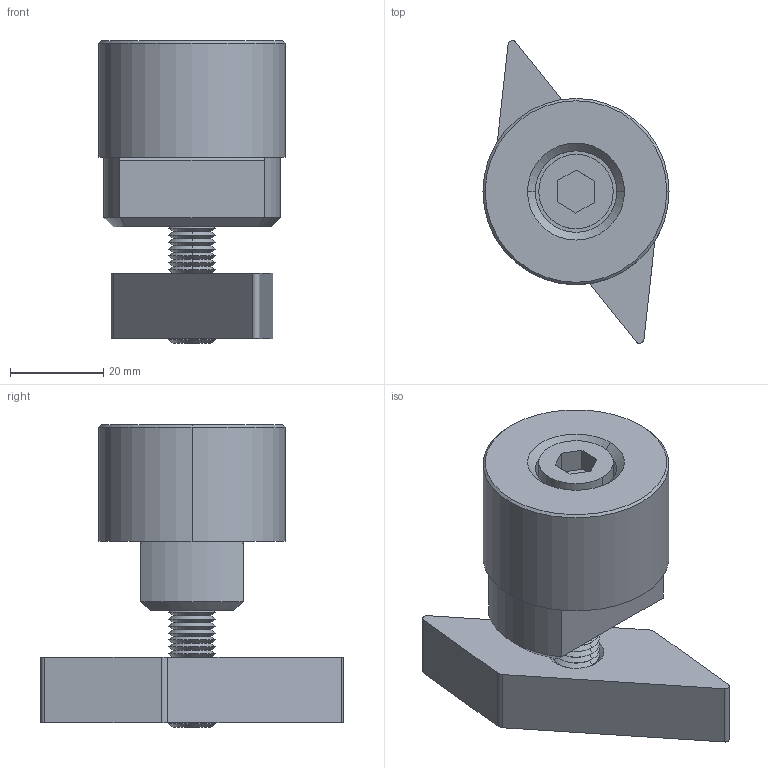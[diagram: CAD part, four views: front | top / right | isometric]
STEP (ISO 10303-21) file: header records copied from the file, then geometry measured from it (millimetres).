
FILE_DESCRIPTION (( 'STEP AP203' ), '1' );
FILE_NAME ('30200.W0122.step', '2017-06-30T11:03:19', ( 'User' ), ( '' ), 'SwSTEP 2.0', 'SolidWorks 2009', '' );
FILE_SCHEMA (( 'CONFIG_CONTROL_DESIGN' ));
Length unit declared in the file: millimetre
Products named in the file (4): Part1_30200.W0122; screw_M10x55; Wedge_30200.W0122; 30200.W0122
Assembly tree (3 placements, depth 2):
  30200.W0122
    Part1_30200.W0122
    screw_M10x55
    Wedge_30200.W0122
Bounding box: 40 x 65.01 x 65 mm (x, y, z)
Volume: 56380.6 mm3; surface area: 16259.1 mm2
Topology: 3 solids, 3 shells, 144 faces, 305 edges, 171 vertices
Faces by surface type: cone 91, plane 34, cylinder 19
Entity records: 4208 total; most frequent: DIRECTION 730, CARTESIAN_POINT 638, ORIENTED_EDGE 610, EDGE_CURVE 305, AXIS2_PLACEMENT_3D 279, VECTOR 172, LINE 172, VERTEX_POINT 171
